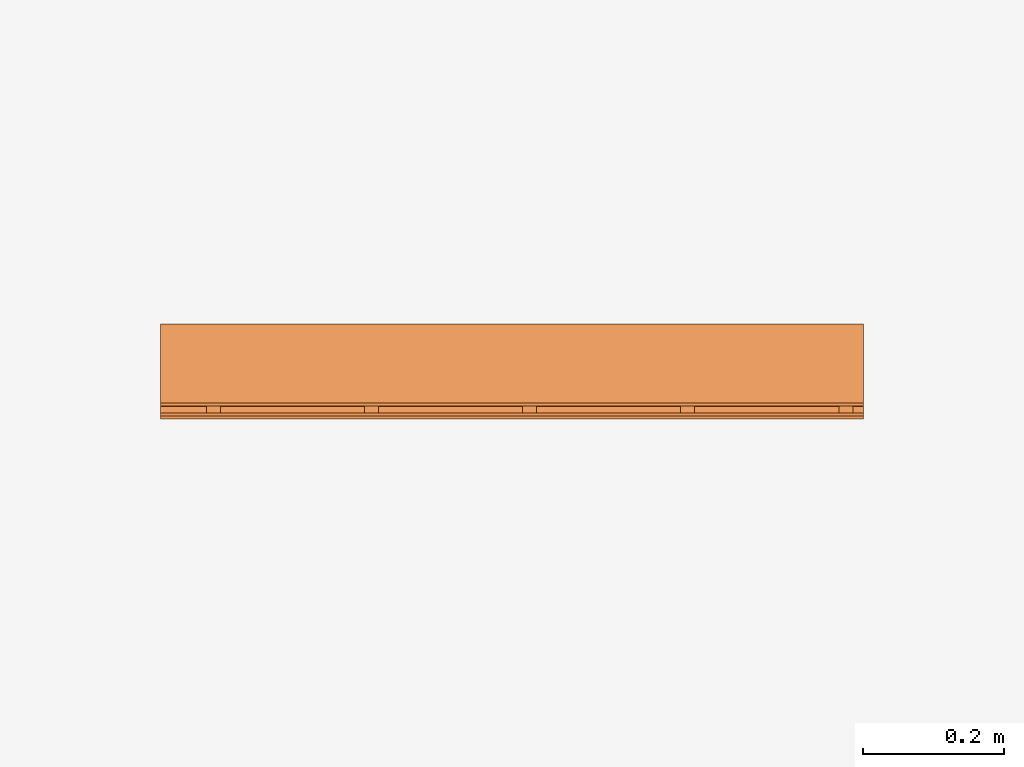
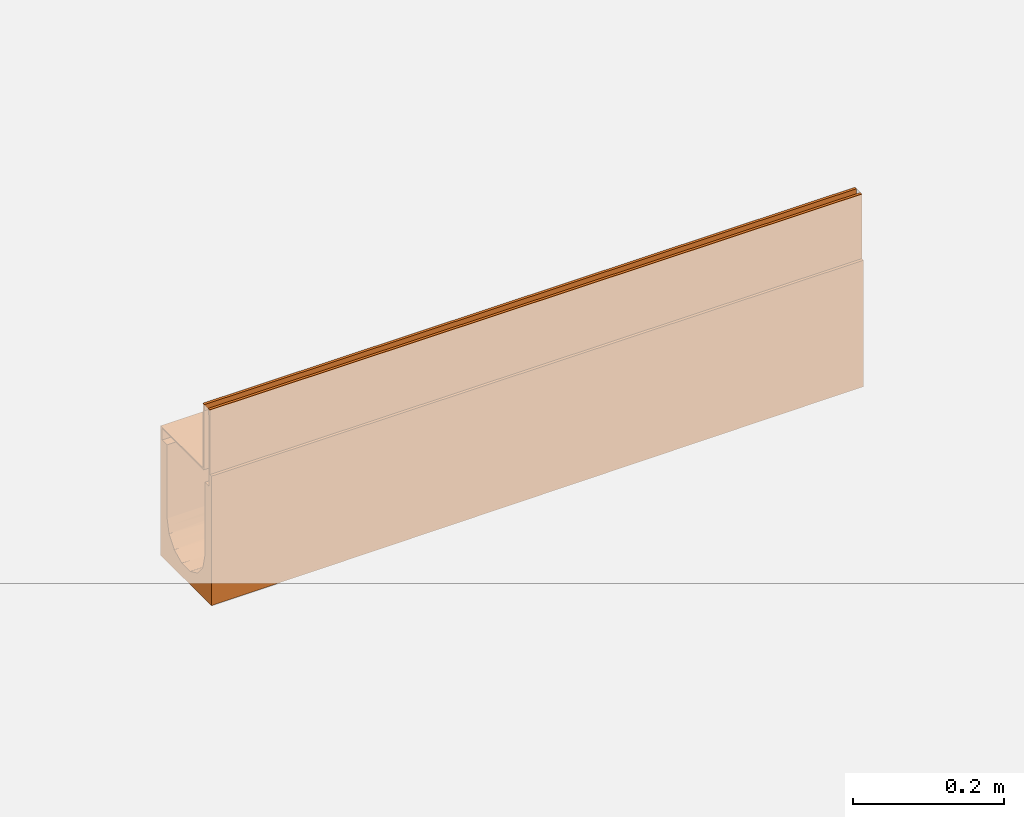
# One storey, part 2 of 2: 1 proxy.
"""IFC2X3 building model written with IfcOpenShell, lengths in millimetres."""

from ifc_helpers import new_model, entity, si_unit, converted_unit, direction, frame, origin, place, context, subcontext, project, spatial, faceted_brep, source, transform, mapped, material, material_list, element, save


model = new_model("IFC2X3")

# Units and contexts
model_context = context("Model", 3, precision=1e-06, world=origin(), true_north=direction((2.0, 6.12303176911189e-17, 1.0)))
context_of_model = context(None, 3, precision=1e-06, world=origin(), true_north=direction((2.0, 6.12303176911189e-17, 1.0)))
body_context = subcontext(model_context, "Body", "Model", "MODEL_VIEW")
ifc_project = project(units=[si_unit("LENGTHUNIT", "METRE", prefix="MILLI"), si_unit("AREAUNIT", "SQUARE_METRE", prefix="MILLI"), si_unit("VOLUMEUNIT", "CUBIC_METRE", prefix="MILLI"), converted_unit("PLANEANGLEUNIT", "DEGREE", entity("IfcRatioMeasure", 0.0174532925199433), si_unit("PLANEANGLEUNIT", "RADIAN"), dimensions=[0, 0, 0, 0, 0, 0, 0]), si_unit("TIMEUNIT", "SECOND")], contexts=[model_context, context_of_model])

# Site, building, storey
site_placement = place(None, origin())
site = spatial("IfcSite", under=ifc_project, at=site_placement, Name="Default", CompositionType="ELEMENT")
building_placement = place(site_placement, origin())
building = spatial("IfcBuilding", under=site, at=building_placement, CompositionType="ELEMENT")
storey_placement = place(building_placement, origin())
storey = spatial("IfcBuildingStorey", under=building, at=storey_placement, Name="Level 1", CompositionType="ELEMENT", Elevation=0.0)

# Proxy
ifc_material_1 = material(Name="Steel, Galvanized")
ifc_material_2 = material(Name="Vienite® Synthetic Resin Concrete")
ifc_material_list = material_list([ifc_material_1, ifc_material_2])
shared_shape = source(origin(), body_context, "Body", "Brep", [
    faceted_brep([(63.249999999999, 15.0, -107.0), (63.249999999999, 17.0, -109.0), (63.249999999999, 33.0, -109.0), (63.249999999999, 35.0, -107.0), (63.249999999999, 17.0, -123.499999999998), (63.249999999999, 15.0, -125.499999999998), (63.249999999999, 33.0, -123.499999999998), (63.249999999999, 35.0, -125.499999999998), (-61.250000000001, 15.0, -125.499999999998), (-61.250000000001, 17.0, -123.499999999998), (-61.250000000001, 33.0, -123.499999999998), (-61.250000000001, 35.0, -125.499999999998), (-61.250000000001, 17.0, -109.0), (-61.250000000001, 15.0, -107.0), (-61.250000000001, 33.0, -109.0), (-61.250000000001, 35.0, -107.0)], [[[0, 1, 2, 3]], [[4, 1, 0, 5]], [[3, 2, 6, 7]], [[6, 4, 5, 7]], [[8, 9, 10, 11]], [[12, 9, 8, 13]], [[11, 10, 14, 15]], [[14, 12, 13, 15]], [[5, 0, 13, 8]], [[7, 5, 8, 11]], [[3, 7, 11, 15]], [[0, 3, 15, 13]], [[1, 4, 9, 12]], [[14, 2, 1, 12]], [[6, 2, 14, 10]], [[9, 4, 6, 10]]]),
    faceted_brep([(-47.2500000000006, 0.0, -10.0), (-47.2500000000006, 0.0, -107.0), (-45.2500000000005, 0.0, -105.0), (-45.2500000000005, 0.0, 0.0), (-49.2500000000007, 0.0, 0.0), (-49.2500000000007, 0.0, -10.0), (63.2499999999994, 0.0, -107.0), (63.2499999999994, 0.0, -105.0), (-45.2500000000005, 1000.0, -105.0), (63.2499999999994, 1000.0, -105.0), (63.2499999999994, 1000.0, -107.0), (-47.2500000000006, 1000.0, -107.0), (-47.2500000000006, 1000.0, -10.0), (-45.2500000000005, 1000.0, 0.0), (-49.2500000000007, 1000.0, -10.0), (-49.2500000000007, 1000.0, 0.0)], [[[0, 1, 2, 3]], [[4, 5, 0, 3]], [[6, 7, 2, 1]], [[8, 9, 10, 11]], [[12, 13, 8, 11]], [[12, 14, 15, 13]], [[0, 5, 14, 12]], [[11, 1, 0, 12]], [[6, 1, 11, 10]], [[9, 7, 6, 10]], [[8, 2, 7, 9]], [[3, 2, 8, 13]], [[15, 4, 3, 13]], [[5, 4, 15, 14]]]),
    faceted_brep([(-59.2500000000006, 1000.0, 0.0), (-59.2500000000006, 1000.0, -10.0), (-61.2500000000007, 1000.0, -10.0), (-63.2500000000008, 1000.0, 0.0), (-63.2500000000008, 1000.0, -125.499999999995), (-61.2500000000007, 1000.0, -125.499999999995), (-61.2500000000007, 0.0, -10.0), (-63.2500000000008, 0.0, 0.0), (-63.2500000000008, 0.0, -125.499999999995), (-61.2500000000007, 0.0, -125.499999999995), (-59.2500000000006, 0.0, 0.0), (-59.2500000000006, 0.0, -10.0)], [[[0, 1, 2, 3]], [[4, 3, 2, 5]], [[6, 7, 8, 9]], [[10, 7, 6, 11]], [[9, 8, 4, 5]], [[6, 9, 5, 2]], [[11, 6, 2, 1]], [[10, 11, 1, 0]], [[3, 7, 10, 0]], [[4, 8, 7, 3]]]),
    faceted_brep([(63.2499999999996, 465.0, -107.0), (63.2499999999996, 467.0, -109.0), (63.2499999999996, 483.0, -109.0), (63.2499999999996, 485.0, -107.0), (63.2499999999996, 467.0, -123.499999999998), (63.2499999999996, 465.0, -125.499999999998), (63.2499999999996, 483.0, -123.499999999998), (63.2499999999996, 485.0, -125.499999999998), (-61.2500000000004, 465.0, -125.499999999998), (-61.2500000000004, 467.0, -123.499999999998), (-61.2500000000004, 483.0, -123.499999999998), (-61.2500000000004, 485.0, -125.499999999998), (-61.2500000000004, 467.0, -109.0), (-61.2500000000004, 465.0, -107.0), (-61.2500000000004, 483.0, -109.0), (-61.2500000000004, 485.0, -107.0)], [[[0, 1, 2, 3]], [[4, 1, 0, 5]], [[3, 2, 6, 7]], [[6, 4, 5, 7]], [[8, 9, 10, 11]], [[12, 9, 8, 13]], [[11, 10, 14, 15]], [[14, 12, 13, 15]], [[5, 0, 13, 8]], [[7, 5, 8, 11]], [[3, 7, 11, 15]], [[0, 3, 15, 13]], [[1, 4, 9, 12]], [[2, 1, 12, 14]], [[6, 2, 14, 10]], [[4, 6, 10, 9]]]),
    faceted_brep([(63.2499999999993, 240.0, -107.0), (63.2499999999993, 242.0, -109.0), (63.2499999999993, 258.0, -109.0), (63.2499999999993, 260.0, -107.0), (63.2499999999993, 242.0, -123.499999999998), (63.2499999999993, 240.0, -125.499999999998), (63.2499999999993, 258.0, -123.499999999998), (63.2499999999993, 260.0, -125.499999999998), (-61.2500000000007, 240.0, -125.499999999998), (-61.2500000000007, 242.0, -123.499999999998), (-61.2500000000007, 258.0, -123.499999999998), (-61.2500000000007, 260.0, -125.499999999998), (-61.2500000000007, 242.0, -109.0), (-61.2500000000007, 240.0, -107.0), (-61.2500000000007, 258.0, -109.0), (-61.2500000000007, 260.0, -107.0)], [[[0, 1, 2, 3]], [[4, 1, 0, 5]], [[3, 2, 6, 7]], [[6, 4, 5, 7]], [[8, 9, 10, 11]], [[12, 9, 8, 13]], [[11, 10, 14, 15]], [[14, 12, 13, 15]], [[5, 0, 13, 8]], [[7, 5, 8, 11]], [[3, 7, 11, 15]], [[0, 3, 15, 13]], [[1, 4, 9, 12]], [[2, 1, 12, 14]], [[6, 2, 14, 10]], [[4, 6, 10, 9]]]),
    faceted_brep([(63.2500000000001, 915.0, -107.0), (63.2500000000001, 917.0, -109.0), (63.2500000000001, 933.0, -109.0), (63.2500000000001, 935.0, -107.0), (63.2500000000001, 917.0, -123.499999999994), (63.2500000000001, 915.0, -125.499999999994), (63.2500000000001, 933.0, -123.499999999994), (63.2500000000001, 935.0, -125.499999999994), (-61.2499999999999, 915.0, -125.499999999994), (-61.2499999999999, 917.0, -123.499999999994), (-61.2499999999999, 933.0, -123.499999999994), (-61.2499999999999, 935.0, -125.499999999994), (-61.2499999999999, 917.0, -109.0), (-61.2499999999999, 915.0, -107.0), (-61.2499999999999, 933.0, -109.0), (-61.2499999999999, 935.0, -107.0)], [[[0, 1, 2, 3]], [[4, 1, 0, 5]], [[3, 2, 6, 7]], [[6, 4, 5, 7]], [[8, 9, 10, 11]], [[12, 9, 8, 13]], [[11, 10, 14, 15]], [[14, 12, 13, 15]], [[5, 0, 13, 8]], [[11, 7, 5, 8]], [[3, 7, 11, 15]], [[13, 0, 3, 15]], [[1, 4, 9, 12]], [[2, 1, 12, 14]], [[6, 2, 14, 10]], [[4, 6, 10, 9]]]),
    faceted_brep([(63.2499999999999, 690.0, -107.0), (63.2499999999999, 692.0, -109.0), (63.2499999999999, 708.0, -109.0), (63.2499999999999, 710.0, -107.0), (63.2499999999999, 692.0, -123.499999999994), (63.2499999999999, 690.0, -125.499999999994), (63.2499999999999, 708.0, -123.499999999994), (63.2499999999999, 710.0, -125.499999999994), (-61.2500000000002, 690.0, -125.499999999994), (-61.2500000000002, 692.0, -123.499999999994), (-61.2500000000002, 708.0, -123.499999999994), (-61.2500000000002, 710.0, -125.499999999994), (-61.2500000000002, 692.0, -109.0), (-61.2500000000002, 690.0, -107.0), (-61.2500000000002, 708.0, -109.0), (-61.2500000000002, 710.0, -107.0)], [[[0, 1, 2, 3]], [[4, 1, 0, 5]], [[3, 2, 6, 7]], [[6, 4, 5, 7]], [[8, 9, 10, 11]], [[12, 9, 8, 13]], [[11, 10, 14, 15]], [[14, 12, 13, 15]], [[5, 0, 13, 8]], [[11, 7, 5, 8]], [[3, 7, 11, 15]], [[13, 0, 3, 15]], [[1, 4, 9, 12]], [[2, 1, 12, 14]], [[6, 2, 14, 10]], [[4, 6, 10, 9]]]),
    faceted_brep([(-67.4999999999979, 1000.0, -105.0), (-63.2499999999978, 1000.0, -105.0), (-63.2499999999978, 1000.0, -125.500000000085), (-67.4999999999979, 1000.0, -315.0), (-50.0, 1000.0, -125.500000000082), (-50.0, 1000.0, -245.0), (-47.5242216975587, 1000.0, -255.847093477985), (-45.0484433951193, 1000.0, -266.694186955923), (-31.1744900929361, 1000.0, -284.091574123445), (-21.1502683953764, 1000.0, -288.91898486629), (-11.1260466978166, 1000.0, -293.746395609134), (-38.1114667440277, 1000.0, -275.392880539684), (0.0, 1000.0, -293.746395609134), (11.126046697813, 1000.0, -293.746395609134), (50.0, 1000.0, -245.0), (50.0, 1000.0, -125.500000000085), (63.249999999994, 1000.0, -125.500000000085), (67.500000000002, 1000.0, -315.0), (63.249999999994, 1000.0, -105.0), (67.500000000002, 1000.0, -105.0), (21.1502683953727, 1000.0, -288.91898486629), (31.1744900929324, 1000.0, -284.091574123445), (45.0484433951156, 1000.0, -266.694186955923), (47.5242216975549, 1000.0, -255.847093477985), (38.111466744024, 1000.0, -275.392880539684), (-67.5000000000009, 0.0, -310.0), (-45.0484433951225, 0.0, -261.694186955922), (-46.5542373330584, 0.0, -255.096872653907), (-50.0, 0.0, -240.0), (-31.1744900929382, 0.0, -279.091574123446), (-38.1114667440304, 0.0, -270.392880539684), (-11.1260466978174, 0.0, -288.746395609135), (-21.1502683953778, 0.0, -283.91898486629), (11.1260466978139, 0.0, -288.746395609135), (0.0, 0.0, -288.746395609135), (67.4999999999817, 0.0, -310.0), (-63.2499999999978, 0.0, -125.500000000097), (-63.2499999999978, 0.0, -105.0), (-67.5000000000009, 0.0, -105.0), (-50.0, 0.0, -125.500000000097), (31.1744900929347, 0.0, -279.091574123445), (21.1502683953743, 0.0, -283.91898486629), (50.0, 0.0, -240.0), (46.5542371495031, 0.0, -255.096873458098), (45.0484433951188, 0.0, -261.694186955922), (38.1114667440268, 0.0, -270.392880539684), (63.2500000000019, 0.0, -125.500000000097), (50.0, 0.0, -125.500000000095), (67.4999999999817, 0.0, -105.0), (63.2500000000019, 0.0, -105.0), (-50.0, 250.000013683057, -241.25000006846), (-35.5430016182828, 477.55479373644, -277.554449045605), (-39.0915746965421, 301.904841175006, -272.684013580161), (-30.4065854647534, 315.866317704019, -281.271138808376), (39.0915767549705, 653.204744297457, -274.44051051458), (43.1307072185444, 488.864082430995, -267.737443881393), (44.2106003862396, 635.514288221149, -266.531860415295), (-39.0915747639, 653.204746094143, -274.440513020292), (-29.696093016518, 646.565597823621, -283.458964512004), (-47.3876306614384, 374.999991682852, -257.82531219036), (-48.89171460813, 518.387005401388, -253.060948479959), (-2.91588081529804e-06, 301.904832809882, -291.509524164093), (-10.9684170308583, 305.042894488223, -290.307320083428), (-5.5982252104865, 150.952413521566, -290.440372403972), (12.0741057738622, 315.866299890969, -290.099594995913), (5.33371147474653, 477.554791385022, -292.10247522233), (35.3553400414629, 150.952387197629, -276.110100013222), (-41.8233658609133, 146.584549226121, -268.133763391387), (42.1728888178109, 829.135588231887, -271.005451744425), (47.0016510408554, 843.632235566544, -261.272333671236), (-50.0, 749.999986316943, -243.749999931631), (-47.0016499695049, 843.632222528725, -261.27233655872), (-21.6941880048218, 209.065851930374, -286.093772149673), (-35.3553394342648, 150.952420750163, -276.110100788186), (-34.4525207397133, 816.145858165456, -280.316399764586), (-25.646806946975, 806.214865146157, -286.952412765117), (21.6941814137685, 500.0, -287.548446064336), (29.6960925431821, 646.565642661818, -283.458965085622), (16.1554098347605, 747.818208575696, -291.057192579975), (-3.27550310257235e-06, 653.204751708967, -293.266023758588), (-8.54111809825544, 477.617179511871, -291.653178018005), (21.6941852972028, 209.065841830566, -286.093773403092), (-46.4228776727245, 186.188946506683, -259.502870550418), (34.4525215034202, 816.145876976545, -280.316399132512), (49.2918467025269, 134.881431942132, -249.0597424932), (47.3876313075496, 374.999975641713, -257.825310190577), (46.4228780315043, 186.188933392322, -259.502869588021), (-50.0, 499.999972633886, -242.499999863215), (39.0915763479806, 301.904795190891, -272.684011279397), (41.8233665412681, 146.584526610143, -268.133762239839), (25.6468067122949, 806.214870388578, -286.952412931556), (-5.38536224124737, 826.602379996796, -293.842144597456), (-16.1554121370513, 747.81816965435, -291.057191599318), (35.5430053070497, 477.554758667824, -277.554445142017), (-42.1728873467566, 829.135597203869, -271.005454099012), (5.59822218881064, 150.952412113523, -290.440372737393), (30.4065855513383, 315.866251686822, -281.271138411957), (-43.1307054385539, 488.864104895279, -267.737447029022), (-44.2105988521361, 635.514296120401, -266.531863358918), (-49.2918465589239, 134.881438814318, -249.059743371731), (-47.7236140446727, 671.453379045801, -258.272248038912), (48.8917149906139, 518.386993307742, -253.060946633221), (50.0, 250.000027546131, -241.250000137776), (50.0, 499.999944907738, -242.499999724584), (50.0, 749.999972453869, -243.749999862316), (47.7236147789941, 671.453375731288, -258.272245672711), (-22.9273943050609, 354.532924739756, -286.206149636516), (-21.6941890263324, 500.0, -287.548442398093), (5.80423086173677, 807.818012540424, -293.701056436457), (22.9273914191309, 354.532889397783, -286.206150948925)], [[[0, 1, 2, 3]], [[2, 4, 5, 3]], [[3, 5, 6, 7]], [[3, 8, 9, 10]], [[3, 7, 11, 8]], [[3, 10, 12, 13]], [[14, 15, 16, 17]], [[16, 18, 19, 17]], [[17, 13, 20, 21]], [[17, 22, 23, 14]], [[17, 21, 24, 22]], [[13, 17, 3]], [[25, 26, 27, 28]], [[25, 29, 30, 26]], [[25, 31, 32, 29]], [[33, 34, 25, 35]], [[36, 37, 38, 25]], [[28, 39, 36, 25]], [[35, 40, 41, 33]], [[35, 42, 43, 44]], [[35, 44, 45, 40]], [[46, 47, 42, 35]], [[48, 49, 46, 35]], [[1, 37, 36, 2]], [[0, 38, 37, 1]], [[0, 3, 25, 38]], [[3, 17, 35, 25]], [[19, 48, 35, 17]], [[18, 49, 48, 19]], [[16, 46, 49, 18]], [[16, 15, 47, 46]], [[4, 39, 28, 50]], [[2, 36, 39, 4]], [[51, 52, 53]], [[54, 55, 56]], [[57, 51, 58]], [[59, 60, 50]], [[61, 62, 63]], [[61, 64, 65]], [[40, 45, 66]], [[30, 67, 26]], [[68, 69, 22]], [[70, 71, 6]], [[29, 72, 73]], [[74, 75, 8]], [[76, 77, 78]], [[65, 79, 80]], [[66, 81, 40]], [[27, 26, 82]], [[24, 83, 68]], [[84, 85, 86]], [[87, 50, 60, 70]], [[88, 66, 89]], [[58, 75, 74]], [[83, 90, 77]], [[91, 10, 92]], [[76, 93, 77]], [[54, 93, 55]], [[94, 57, 74]], [[30, 73, 67]], [[63, 72, 31]], [[61, 63, 95]], [[72, 53, 73]], [[45, 89, 66]], [[93, 76, 96]], [[97, 98, 60]], [[27, 82, 99]], [[52, 51, 97]], [[98, 94, 71]], [[98, 71, 100]], [[101, 102, 103, 104]], [[102, 101, 85]], [[84, 86, 43]], [[104, 69, 105]], [[69, 68, 56]], [[28, 27, 99]], [[52, 59, 82]], [[99, 59, 50]], [[72, 29, 32, 31]], [[29, 73, 30]], [[67, 52, 82]], [[95, 34, 33]], [[73, 53, 52]], [[72, 106, 53]], [[107, 58, 51]], [[107, 51, 53]], [[97, 51, 57]], [[58, 107, 92]], [[74, 57, 58]], [[80, 92, 107]], [[79, 108, 91]], [[98, 97, 57]], [[52, 97, 59]], [[52, 67, 73]], [[26, 67, 82]], [[92, 10, 9]], [[74, 11, 94]], [[92, 9, 75]], [[94, 7, 71]], [[75, 58, 92]], [[59, 99, 82]], [[28, 99, 50]], [[11, 74, 8]], [[11, 7, 94]], [[8, 75, 9]], [[70, 6, 5]], [[71, 70, 100]], [[71, 7, 6]], [[43, 86, 44]], [[42, 102, 84]], [[88, 86, 85]], [[42, 84, 43]], [[85, 84, 102]], [[81, 66, 96]], [[86, 89, 44]], [[81, 33, 41, 40]], [[96, 66, 88]], [[95, 64, 61]], [[93, 96, 88]], [[109, 81, 96]], [[55, 88, 85]], [[93, 54, 77]], [[54, 83, 77]], [[90, 78, 77]], [[12, 91, 108]], [[65, 78, 79]], [[88, 55, 93]], [[55, 85, 101]], [[44, 89, 45]], [[88, 89, 86]], [[68, 83, 54]], [[20, 90, 21]], [[68, 54, 56]], [[24, 21, 83]], [[78, 20, 13]], [[68, 22, 24]], [[21, 90, 83]], [[20, 78, 90]], [[101, 104, 105]], [[104, 23, 69]], [[23, 104, 14]], [[91, 92, 79]], [[23, 22, 69]], [[63, 31, 34]], [[33, 81, 95]], [[64, 95, 81]], [[109, 64, 81]], [[76, 78, 65]], [[76, 65, 64]], [[79, 92, 80]], [[107, 106, 62]], [[61, 65, 80]], [[95, 63, 34]], [[61, 80, 62]], [[107, 62, 80]], [[72, 63, 62]], [[97, 60, 59]], [[70, 60, 100]], [[101, 105, 56]], [[62, 106, 72]], [[107, 53, 106]], [[94, 98, 57]], [[60, 98, 100]], [[96, 76, 109]], [[64, 109, 76]], [[101, 56, 55]], [[56, 105, 69]], [[108, 79, 78]], [[10, 91, 12]], [[78, 13, 108]], [[12, 108, 13]], [[15, 14, 104, 103]], [[47, 15, 42]], [[25, 34, 31]], [[4, 50, 87, 70]], [[4, 70, 5]], [[15, 103, 102, 42]]]),
])
proxy_placement = place(storey_placement, frame((143.656586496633, 99.9218925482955, 0.0), z_axis=(0.0, 0.0, 1.0), x_axis=(0.0, 1.0, 0.0)))
element("IfcBuildingElementProxy", 1, at=proxy_placement, inside=storey, material=ifc_material_list, Name="Civil-Drainage-Channel-ACO-MultiDrain-M100D-Brickslot-Channel-System:23012 - No 12 Sloping Channel - 1000mm LG - Invert Depth 185/190mm:23012 - No 12 Sloping Channel - 1000mm LG - Invert Depth 185/190mm", ObjectType="23012 - No 12 Sloping Channel - 1000mm LG - Invert Depth 185/190mm", CompositionType="ELEMENT", context=body_context, shape_type="MappedRepresentation", body=[
    mapped(shared_shape, transform((0.0, 0.0, 0.0), scale=1.0)),
])

save(model, "model.ifc")
